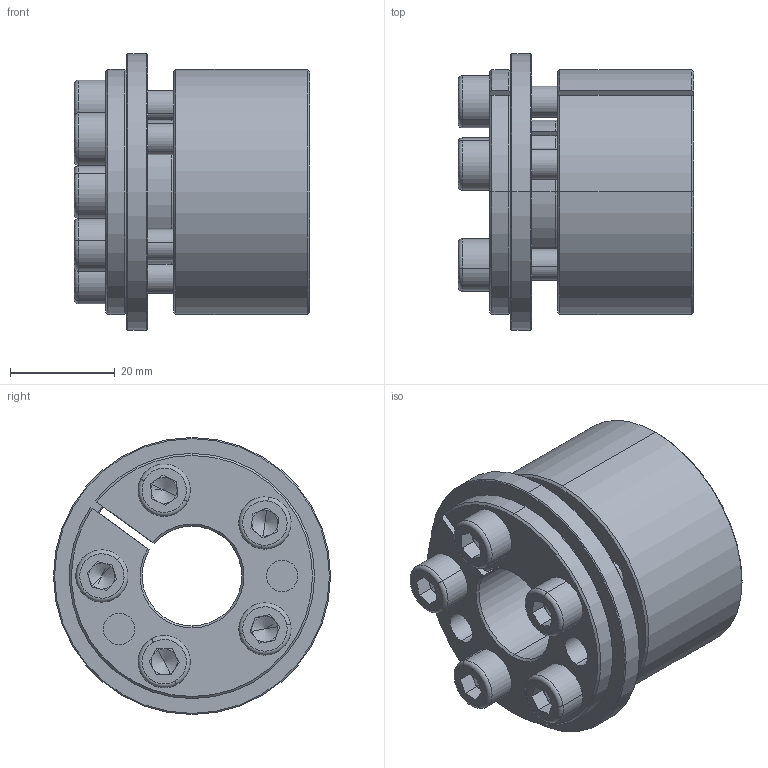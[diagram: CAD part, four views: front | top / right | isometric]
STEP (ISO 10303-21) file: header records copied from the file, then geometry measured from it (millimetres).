
FILE_DESCRIPTION (( 'STEP AP214' ), '1' );
FILE_NAME ('H5×°ÅäÌå19-47.STEP', '2022-07-26T01:50:31', ( '' ), ( '' ), 'SwSTEP 2.0', 'SolidWorks 2022', '' );
FILE_SCHEMA (( 'AUTOMOTIVE_DESIGN' ));
Length unit declared in the file: millimetre
Products named in the file (1): H5蚾饜极19-47
Bounding box: 45 x 53 x 53 mm (x, y, z)
Volume: 51093.7 mm3; surface area: 20373.5 mm2
Topology: 1 solids, 1 shells, 222 faces, 543 edges, 333 vertices
Faces by surface type: plane 85, cone 64, cylinder 63, torus 10
Entity records: 6566 total; most frequent: DIRECTION 1210, CARTESIAN_POINT 1161, ORIENTED_EDGE 1066, EDGE_CURVE 533, AXIS2_PLACEMENT_3D 478, VERTEX_POINT 333, EDGE_LOOP 258, CIRCLE 255
